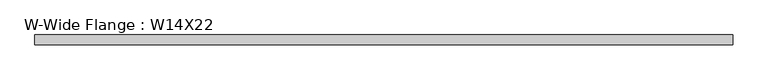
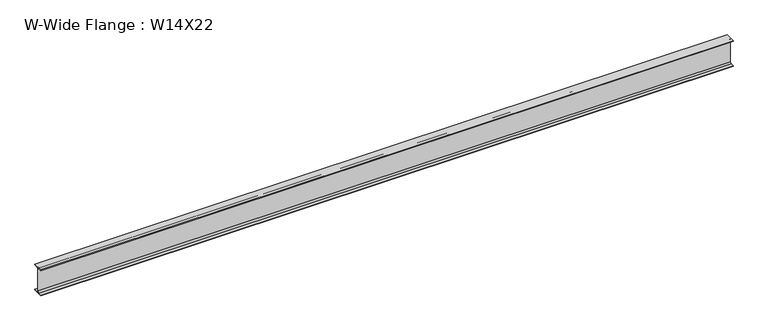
"""IFC4 building model written with IfcOpenShell, lengths in millimetres: beam geometry, W-Wide Flange : W14X22."""

from ifc_helpers import new_model, si_unit, point, frame, frame_2d, origin, place, context, project, spatial, polyline, circle_curve, trimmed, segment, composite_curve, outline, extrude, source, transform, mapped, element, save


def w_wide_flange_w14x22_2ac3afcd(model_context):
    return source(origin(), model_context, "Body", "SweptSolid", [
        extrude(outline(composite_curve([segment(polyline([(63.5, -165.481), (63.5, -173.99), (-63.5, -173.99), (-63.5, -165.481), (-21.3995, -165.481)]), True, "CONTINUOUS"), segment(trimmed(circle_curve(frame_2d((-21.3995, -147.0025)), 18.4785), [point((-21.3995, -165.481))], [point((-2.921, -147.0025))], True, "CARTESIAN"), True, "CONTINUOUS"), segment(polyline([(-2.921, -147.0025), (-2.921, 147.0025)]), True, "CONTINUOUS"), segment(trimmed(circle_curve(frame_2d((-21.3995, 147.0025)), 18.4785), [point((-2.921, 147.0025))], [point((-21.3995, 165.481))], True, "CARTESIAN"), True, "CONTINUOUS"), segment(polyline([(-21.3995, 165.481), (-63.5, 165.481), (-63.5, 173.99), (63.5, 173.99), (63.5, 165.481), (21.3995, 165.481)]), True, "CONTINUOUS"), segment(trimmed(circle_curve(frame_2d((21.3995, 147.0025)), 18.4785), [point((21.3995, 165.481))], [point((2.921, 147.0025))], True, "CARTESIAN"), True, "CONTINUOUS"), segment(polyline([(2.921, 147.0025), (2.921, -147.0025)]), True, "CONTINUOUS"), segment(trimmed(circle_curve(frame_2d((21.3995, -147.0025)), 18.4785), [point((2.921, -147.0025))], [point((21.3995, -165.481))], True, "CARTESIAN"), True, "CONTINUOUS"), segment(polyline([(21.3995, -165.481), (63.5, -165.481)]), True, "CONTINUOUS")], self_intersect=False)), frame((-4381.4503906, 0.0, 0.0), z_axis=(1.0, 0.0, 0.0), x_axis=(0.0, 1.0, 0.0)), (0.0, 0.0, 1.0), 8839.1007812),
    ])


if __name__ == "__main__":
    model = new_model("IFC4")
    model_context = context("Model", 3, world=origin())
    ifc_project = project(units=[si_unit("LENGTHUNIT", "METRE", prefix="MILLI")], contexts=[model_context])
    site = spatial("IfcSite", under=ifc_project)
    building = spatial("IfcBuilding", under=site)
    placement = place(None, origin())
    w_wide_flange_w14x22_shape = w_wide_flange_w14x22_2ac3afcd(model_context)
    element("IfcBeam", 1, ObjectType="W-Wide Flange : W14X22", at=placement, inside=building, context=model_context, shape_type="MappedRepresentation", body=[
        mapped(w_wide_flange_w14x22_shape, transform((0.0, 0.0, 0.0), x_axis=(1.0, 0.0, 0.0), y_axis=(0.0, 1.0, 0.0), z_axis=(0.0, 0.0, 1.0))),
    ])
    save(model, "model.ifc")
